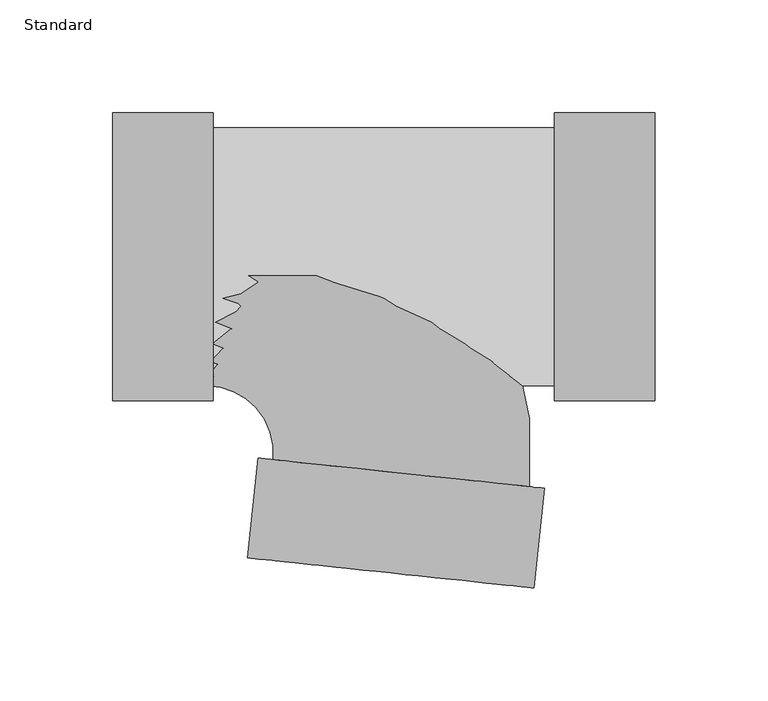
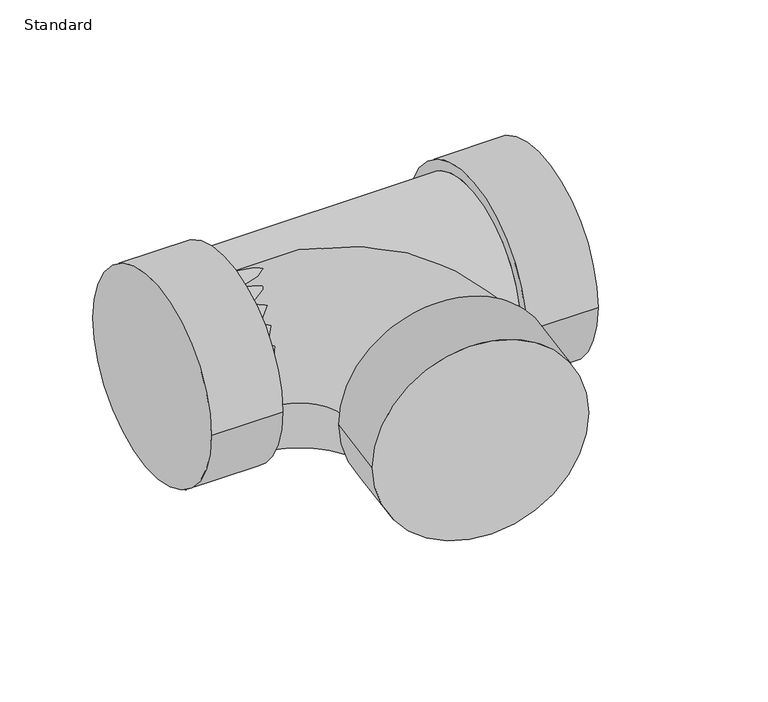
"""IFC4 building model written with IfcOpenShell, lengths in millimetres: pipe fitting geometry, EG-RCAN Té sanitaire de réduction - PVC - Nom. 40 - DWV : Standard."""

import ifcopenshell
import ifcopenshell.guid

model = None  # the IFC model being written
_history = None  # IfcOwnerHistory: only IFC2X3 demands one
_inside = {}  # id of a spatial element -> (the spatial element, [elements in it])
_under = {}  # id of a project, library or spatial element -> (it, [spatial elements below it])
_declared = {}  # id of a project -> (the project, [libraries it declares])
_typed = {}  # id of a type object -> (the type object, [elements of that type])
_made_of = {}  # id of a material, layer set ... -> (it, [elements and type objects made of it])


def new_model(schema):
    """Start an empty IFC model of exactly this schema.

    Asked for "IFC4X3", IfcOpenShell would pick the latest addendum, in which some entities
    have other attributes; the version numbers below select the first issue.
    IFC2X3 requires an IfcOwnerHistory on every rooted entity: one is made here for all.
    """
    global model, _history
    if schema == "IFC4X3":
        model = ifcopenshell.file(schema_version=(4, 3, 0, 0))
    else:
        model = ifcopenshell.file(schema=schema)
    _inside.clear()
    _under.clear()
    _declared.clear()
    _typed.clear()
    _made_of.clear()
    _history = None
    if model.schema == "IFC2X3":
        org = make("IfcOrganization", Name="unknown")
        user = make(
            "IfcPersonAndOrganization",
            ThePerson=make("IfcPerson", FamilyName="unknown"),
            TheOrganization=org,
        )
        app = make(
            "IfcApplication",
            ApplicationDeveloper=org,
            Version="unknown",
            ApplicationFullName="unknown",
            ApplicationIdentifier="unknown",
        )
        _history = make(
            "IfcOwnerHistory",
            OwningUser=user,
            OwningApplication=app,
            ChangeAction="ADDED",
            CreationDate=0,
        )
    return model


def make(cls, **values):
    """One entity of the class cls with the attributes given. An attribute that is None is left unset."""
    return model.create_entity(
        cls, **{name: value for name, value in values.items() if value is not None}
    )


def rooted(cls, **values):
    """An entity with a GlobalId (a new one), such as an element, a storey or a relation."""
    return make(cls, GlobalId=ifcopenshell.guid.new(), OwnerHistory=_history, **values)


def si_unit(unit_type, name, prefix=None):
    """IfcSIUnit, for example si_unit("LENGTHUNIT", "METRE", prefix="MILLI")."""
    return make("IfcSIUnit", UnitType=unit_type, Prefix=prefix, Name=name)


def assignment(units):
    """IfcUnitAssignment: the units of a project."""
    return None if units is None else make("IfcUnitAssignment", Units=units)


def point(xyz):
    """IfcCartesianPoint."""
    return None if xyz is None else make("IfcCartesianPoint", Coordinates=xyz)


def direction(xyz):
    """IfcDirection."""
    return None if xyz is None else make("IfcDirection", DirectionRatios=xyz)


def frame(location, z_axis=None, x_axis=None):
    """IfcAxis2Placement3D, a coordinate frame: its origin and axes. An axis left out is left unset."""
    return make(
        "IfcAxis2Placement3D",
        Location=point(location),
        Axis=direction(z_axis),
        RefDirection=direction(x_axis),
    )


def origin():
    """The frame at (0, 0, 0) with its axes left unset."""
    return frame((0.0, 0.0, 0.0))


def place(relative_to, where):
    """IfcLocalPlacement: puts the frame where relative to a parent placement (None: the world)."""
    return make(
        "IfcLocalPlacement", PlacementRelTo=relative_to, RelativePlacement=where
    )


def context(
    kind, dimensions, precision=None, world=None, true_north=None, identifier=None
):
    """IfcGeometricRepresentationContext, for example the 3D "Model" context."""
    return make(
        "IfcGeometricRepresentationContext",
        ContextIdentifier=identifier,
        ContextType=kind,
        CoordinateSpaceDimension=dimensions,
        Precision=precision,
        WorldCoordinateSystem=world,
        TrueNorth=true_north,
    )


def project(units=None, contexts=None):
    """IfcProject with its units and contexts."""
    return rooted(
        "IfcProject",
        Name="project",
        RepresentationContexts=contexts,
        UnitsInContext=assignment(units),
    )


def spatial(cls, under=None, at=None, **own):
    """A site, building, storey or space (cls), placed at a placement, below another one or the project."""
    s = rooted(cls, ObjectPlacement=at, **own)
    if under is not None:
        _under.setdefault(under.id(), (under, []))[1].append(s)
    return s


def circle_curve(where, radius):
    """IfcCircle in the frame where."""
    return make("IfcCircle", Position=where, Radius=radius)


def ellipse_curve(where, semi_axis1, semi_axis2):
    """IfcEllipse in the frame where."""
    return make(
        "IfcEllipse", Position=where, SemiAxis1=semi_axis1, SemiAxis2=semi_axis2
    )


def trimmed(basis, trim1, trim2, sense, master):
    """IfcTrimmedCurve: the piece of a basis curve between two trims."""
    return make(
        "IfcTrimmedCurve",
        BasisCurve=basis,
        Trim1=trim1,
        Trim2=trim2,
        SenseAgreement=sense,
        MasterRepresentation=master,
    )


def shape(context_of_items, identifier, shape_type, items):
    """IfcShapeRepresentation: the items that make up one representation, for example the "Body"."""
    return make(
        "IfcShapeRepresentation",
        ContextOfItems=context_of_items,
        RepresentationIdentifier=identifier,
        RepresentationType=shape_type,
        Items=items,
    )


def source(mapping_origin, context_of_items, identifier, shape_type, items):
    """IfcRepresentationMap: a shape defined once, which mapped items show again and again."""
    return make(
        "IfcRepresentationMap",
        MappingOrigin=mapping_origin,
        MappedRepresentation=shape(context_of_items, identifier, shape_type, items),
    )


def transform(
    local_origin,
    x_axis=None,
    y_axis=None,
    z_axis=None,
    scale=None,
    scale2=None,
    scale3=None,
    uniform=True,
):
    """IfcCartesianTransformationOperator3D, or its non-uniform kind. x_axis, y_axis, z_axis: its Axis1, 2, 3."""
    if uniform:
        return make(
            "IfcCartesianTransformationOperator3D",
            Axis1=direction(x_axis),
            Axis2=direction(y_axis),
            LocalOrigin=point(local_origin),
            Scale=scale,
            Axis3=direction(z_axis),
        )
    return make(
        "IfcCartesianTransformationOperator3DnonUniform",
        Axis1=direction(x_axis),
        Axis2=direction(y_axis),
        LocalOrigin=point(local_origin),
        Scale=scale,
        Axis3=direction(z_axis),
        Scale2=scale2,
        Scale3=scale3,
    )


def mapped(mapping_source, mapping_target):
    """IfcMappedItem: shows the shape of a source again, moved by a transform."""
    return make(
        "IfcMappedItem", MappingSource=mapping_source, MappingTarget=mapping_target
    )


def made_of(thing, what):
    """Note that an element or type object is made of a material, layer set ...; save() writes the relation."""
    if what is not None:
        _made_of.setdefault(what.id(), (what, []))[1].append(thing)
    return thing


def element(
    cls,
    number,
    at=None,
    inside=None,
    cuts=None,
    type_object=None,
    material=None,
    context=None,
    identifier="Body",
    shape_type=None,
    held_by="IfcProductDefinitionShape",
    body=None,
    shapes=None,
    **own,
):
    """One element of the class cls, such as IfcWall. Its Tag is "e" and its number.

    at: its placement. inside: the storey or other place that contains it. cuts: it is an
    opening in that element (IfcRelVoidsElement). A single representation is given by context,
    identifier, shape_type and body (its items); several are given by shapes. held_by: the class
    of the entity that holds the representations. save() writes the other relations.
    """
    e = rooted(cls, Tag="e%d" % number, ObjectPlacement=at, **own)
    if body is not None:
        shapes = [shape(context, identifier, shape_type, body)]
    if shapes is not None:
        e.Representation = make(held_by, Representations=shapes)
    if inside is not None:
        _inside.setdefault(inside.id(), (inside, []))[1].append(e)
    if cuts is not None:
        rooted(
            "IfcRelVoidsElement", RelatingBuildingElement=cuts, RelatedOpeningElement=e
        )
    if type_object is not None:
        _typed.setdefault(type_object.id(), (type_object, []))[1].append(e)
    return made_of(e, material)


def aggregate(whole, parts):
    """IfcRelAggregates: a whole, such as a stair, and the parts it consists of."""
    return rooted("IfcRelAggregates", RelatingObject=whole, RelatedObjects=parts)


def save(model, path):
    """Write the relations noted so far, then the file.

    IfcRelAggregates (storeys below a building ...), IfcRelContainedInSpatialStructure (elements
    in a storey), IfcRelDefinesByType, IfcRelAssociatesMaterial and IfcRelDeclares: one each for
    every whole, place, type object, material and project.
    """
    for whole, parts in _under.values():
        aggregate(whole, parts)
    for where, things in _inside.values():
        rooted(
            "IfcRelContainedInSpatialStructure",
            RelatedElements=things,
            RelatingStructure=where,
        )
    for kind, things in _typed.values():
        rooted("IfcRelDefinesByType", RelatedObjects=things, RelatingType=kind)
    for what, things in _made_of.values():
        rooted("IfcRelAssociatesMaterial", RelatedObjects=things, RelatingMaterial=what)
    for by, libraries in _declared.values():
        rooted("IfcRelDeclares", RelatingContext=by, RelatedDefinitions=libraries)
    model.write(path)


def plane_surface(at):
    """IfcPlane: the flat surface through the origin of the frame at, square to its z axis."""
    return make("IfcPlane", Position=at)


def cylinder_surface(at, radius):
    """IfcCylindricalSurface: all points at the distance radius from the z axis of the frame at."""
    return make("IfcCylindricalSurface", Position=at, Radius=radius)


def revolved_surface(curve, axis_point, axis_direction):
    """IfcSurfaceOfRevolution: the curve turned about the line through axis_point along axis_direction."""
    return make(
        "IfcSurfaceOfRevolution",
        SweptCurve=make("IfcArbitraryOpenProfileDef", ProfileType="CURVE", Curve=curve),
        AxisPosition=make("IfcAxis1Placement", Location=point(axis_point), Axis=direction(axis_direction)),
    )


def advanced_brep(points, edges, surfaces, faces):
    """IfcAdvancedBrep: a solid bounded by faces that lie on surfaces and meet in shared edges.

    An edge is (start, end): straight between two places in points (the first is 0);
    or (start, end, curve); or (start, end, curve, False) where it runs against its curve.
    A face is (place in surfaces, loops), or (place, loops, False) where it looks against
    its surface's normal. A loop lists edges by number (the first is 1), with a minus sign
    where the edge is run from its end to its start. The first loop is the outer one.
    """
    corners = [point(p) for p in points]
    vertices = [make("IfcVertexPoint", VertexGeometry=c) for c in corners]
    made = []
    for start, end, *more in edges:
        made.append(
            make(
                "IfcEdgeCurve",
                EdgeStart=vertices[start],
                EdgeEnd=vertices[end],
                EdgeGeometry=more[0] if more else make("IfcPolyline", Points=[corners[start], corners[end]]),
                SameSense=more[1] if len(more) > 1 else True,
            )
        )
    hull = []
    for where, loops, *sense in faces:
        bounds = []
        for j, loop in enumerate(loops):
            ring = [make("IfcOrientedEdge", EdgeElement=made[abs(k) - 1], Orientation=k > 0) for k in loop]
            bounds.append(
                make(
                    "IfcFaceOuterBound" if j == 0 else "IfcFaceBound",
                    Bound=make("IfcEdgeLoop", EdgeList=ring),
                    Orientation=True,
                )
            )
        hull.append(make("IfcAdvancedFace", Bounds=bounds, FaceSurface=surfaces[where], SameSense=sense[0] if sense else True))
    return make("IfcAdvancedBrep", Outer=make("IfcClosedShell", CfsFaces=hull))


def standard_1ccfa073(model_context):
    return source(origin(), model_context, "Body", "AdvancedBrep", [
        advanced_brep(
        [(57.822125, -63.754, 0.0), (57.822125, 63.754, 0.0), (57.822125, -57.15, 0.0), (57.822125, 57.15, 0.0), (102.272125, -63.754, 0.0), (102.272125, 63.754, 0.0), (-93.4599062, 57.15, 0.0), (-93.4599062, -57.15, 0.0), (-137.9099062, -63.754, 0.0), (-137.9099062, 63.754, 0.0), (-93.4599062, -63.754, 0.0), (-93.4599062, 63.754, 0.0)],
        [
            (0, 1, circle_curve(frame((57.822125, 0.0, 0.0), z_axis=(-1.0, 0.0, 0.0), x_axis=(0.0, 1.0, 0.0)), 63.754)),
            (1, 0, circle_curve(frame((57.822125, 0.0, 0.0), z_axis=(-1.0, 0.0, 0.0), x_axis=(0.0, 1.0, 0.0)), 63.754)),
            (2, 3, circle_curve(frame((57.822125, 0.0, 0.0), z_axis=(1.0, 0.0, 0.0), x_axis=(0.0, 0.0, -1.0)), 57.15)),
            (3, 2, circle_curve(frame((57.822125, 0.0, 0.0), z_axis=(1.0, 0.0, 0.0), x_axis=(0.0, 0.0, 1.0)), 57.15)),
            (4, 5, circle_curve(frame((102.272125, 0.0, 0.0), z_axis=(1.0, 0.0, 0.0), x_axis=(0.0, 1.0, 0.0)), 63.754)),
            (5, 4, circle_curve(frame((102.272125, 0.0, 0.0), z_axis=(1.0, 0.0, 0.0), x_axis=(0.0, 1.0, 0.0)), 63.754)),
            (0, 4),
            (5, 1),
            (6, 3),
            (2, 7),
            (7, 6, circle_curve(frame((-93.4599062, 0.0, 0.0), z_axis=(1.0, 0.0, 0.0), x_axis=(0.0, 0.0, -1.0)), 57.15)),
            (6, 7, circle_curve(frame((-93.4599062, 0.0, 0.0), z_axis=(1.0, 0.0, 0.0), x_axis=(0.0, 0.0, 1.0)), 57.15)),
            (8, 9, circle_curve(frame((-137.9099062, 0.0, 0.0), z_axis=(-1.0, 0.0, 0.0), x_axis=(0.0, 1.0, 0.0)), 63.754)),
            (9, 8, circle_curve(frame((-137.9099062, 0.0, 0.0), z_axis=(-1.0, 0.0, 0.0), x_axis=(0.0, 1.0, 0.0)), 63.754)),
            (10, 11, circle_curve(frame((-93.4599062, 0.0, 0.0), z_axis=(1.0, 0.0, 0.0), x_axis=(0.0, 1.0, 0.0)), 63.754)),
            (11, 10, circle_curve(frame((-93.4599062, 0.0, 0.0), z_axis=(1.0, 0.0, 0.0), x_axis=(0.0, 1.0, 0.0)), 63.754)),
            (8, 10),
            (11, 9),
        ],
        [
            plane_surface(frame((57.822125, 0.0, 0.0), z_axis=(-1.0, 0.0, 0.0), x_axis=(0.0, 0.0, 1.0))),
            plane_surface(frame((102.272125, 0.0, 0.0), z_axis=(1.0, 0.0, 0.0), x_axis=(0.0, 0.0, 1.0))),
            cylinder_surface(frame((57.822125, 0.0, 0.0), z_axis=(-1.0, 0.0, 0.0), x_axis=(0.0, 1.0, 0.0)), 63.754),
            cylinder_surface(frame((-93.4599062, 0.0, 0.0), z_axis=(1.0, 0.0, 0.0), x_axis=(0.0, 0.0, -1.0)), 57.15),
            cylinder_surface(frame((-93.4599062, 0.0, 0.0), z_axis=(1.0, 0.0, 0.0), x_axis=(0.0, 0.0, 1.0)), 57.15),
            plane_surface(frame((-137.9099062, 0.0, 0.0), z_axis=(-1.0, 0.0, 0.0), x_axis=(0.0, 0.0, 1.0))),
            plane_surface(frame((-93.4599062, 0.0, 0.0), z_axis=(1.0, 0.0, 0.0), x_axis=(0.0, 0.0, 1.0))),
            cylinder_surface(frame((-137.9099062, 0.0, 0.0), z_axis=(-1.0, 0.0, 0.0), x_axis=(0.0, 1.0, 0.0)), 63.754),
        ],
        [
            (0, [[1, 2], [3, 4]]),
            (1, [[5, 6]]),
            (2, [[-1, 7, -6, 8]]),
            (2, [[-2, -8, -5, -7]]),
            (3, [[9, -3, 10, 11]]),
            (4, [[-9, 12, -10, -4]]),
            (5, [[13, 14]]),
            (6, [[15, 16], [-11, -12]]),
            (7, [[-13, 17, -16, 18]]),
            (7, [[-14, -18, -15, -17]]),
        ],
    ),
        advanced_brep(
        [(-73.467072, -89.162956, 0.0), (53.3437332, -102.4787271, 0.0), (46.7758429, -101.7890657, 0.0), (-66.8991816, -89.8526174, 0.0), (-78.109024, -133.36991, 0.0), (48.7017811, -146.6856811, 0.0), (-96.3476562, -57.15, 0.0), (-96.3476562, 57.15, 0.0)],
        [
            (0, 1, circle_curve(frame((-10.0616694, -95.8208415, 0.0), z_axis=(0.10443086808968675, 0.9945321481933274, 0.0), x_axis=(0.9945321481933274, -0.10443086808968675, 0.0)), 63.754)),
            (1, 0, circle_curve(frame((-10.0616694, -95.8208415, 0.0), z_axis=(0.10443086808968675, 0.9945321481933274, 0.0), x_axis=(0.9945321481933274, -0.10443086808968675, 0.0)), 63.754)),
            (2, 3, circle_curve(frame((-10.0616694, -95.8208415, 0.0), z_axis=(-0.10443086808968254, -0.9945321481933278, 0.0), x_axis=(0.9945321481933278, -0.10443086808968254, 0.0)), 57.15)),
            (3, 2, circle_curve(frame((-10.0616694, -95.8208415, 0.0), z_axis=(-0.10443086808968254, -0.9945321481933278, 0.0), x_axis=(0.9945321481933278, -0.10443086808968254, 0.0)), 57.15)),
            (4, 5, circle_curve(frame((-14.7036215, -140.0277955, 0.0), z_axis=(-0.10443086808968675, -0.9945321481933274, 0.0), x_axis=(0.9945321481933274, -0.10443086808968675, 0.0)), 63.754)),
            (5, 4, circle_curve(frame((-14.7036215, -140.0277955, 0.0), z_axis=(-0.10443086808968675, -0.9945321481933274, 0.0), x_axis=(0.9945321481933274, -0.10443086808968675, 0.0)), 63.754)),
            (0, 4),
            (5, 1),
            (6, 7, circle_curve(frame((-96.3476562, 0.0, 0.0), z_axis=(-1.0, 0.0, 0.0), x_axis=(0.0, 1.0, 0.0)), 57.15)),
            (7, 6, circle_curve(frame((-96.3476562, 0.0, 0.0), z_axis=(-1.0, 0.0, 0.0), x_axis=(0.0, 1.0, 0.0)), 57.15)),
            (6, 3, circle_curve(frame((-96.3476562, -86.7603798, 0.0), z_axis=(0.0, 0.0, -1.0), x_axis=(0.0, 1.0, 0.0)), 29.6103798)),
            (2, 7, circle_curve(frame((-96.3476562, -86.7603798, 0.0), z_axis=(0.0, 0.0, 1.0), x_axis=(0.0, 1.0, 0.0)), 143.9103798)),
        ],
        [
            plane_surface(frame((-10.0616694, -95.8208415, 0.0), z_axis=(0.10443086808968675, 0.9945321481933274, 0.0), x_axis=(0.0, 0.0, 1.0))),
            plane_surface(frame((-14.7036215, -140.0277955, 0.0), z_axis=(-0.10443086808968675, -0.9945321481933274, 0.0), x_axis=(0.0, 0.0, 1.0))),
            cylinder_surface(frame((-10.0616694, -95.8208415, 0.0), z_axis=(0.10443086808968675, 0.9945321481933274, 0.0), x_axis=(0.9945321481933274, -0.10443086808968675, 0.0)), 63.754),
            plane_surface(frame((-96.3476562, 0.0, 0.0), z_axis=(-1.0, 0.0, 0.0), x_axis=(0.0, 0.0, 1.0))),
            revolved_surface(trimmed(ellipse_curve(frame((-96.3476562, 0.0, 0.0), z_axis=(-1.0, 0.0, 0.0), x_axis=(0.0, 1.0, 0.0)), 57.15, 57.15), [point((-96.3476562, -57.15, 0.0))], [point((-96.3476562, 57.15, 0.0))], True, "CARTESIAN"), (-96.3476562, -86.7603798, 0.0), (0.0, 0.0, -1.0)),
            revolved_surface(trimmed(ellipse_curve(frame((-96.3476562, 0.0, 0.0), z_axis=(-1.0, 0.0, 0.0), x_axis=(0.0, 1.0, 0.0)), 57.15, 57.15), [point((-96.3476562, 57.15, 0.0))], [point((-96.3476562, -57.15, 0.0))], True, "CARTESIAN"), (-96.3476562, -86.7603798, 0.0), (0.0, 0.0, -1.0)),
        ],
        [
            (0, [[1, 2], [3, 4]]),
            (1, [[5, 6]]),
            (2, [[-1, 7, -6, 8]]),
            (2, [[-2, -8, -5, -7]]),
            (3, [[9, 10]]),
            (4, [[-9, 11, -3, 12]]),
            (5, [[-10, -12, -4, -11]]),
        ],
    ),
    ])


if __name__ == "__main__":
    model = new_model("IFC4")
    model_context = context("Model", 3, world=origin())
    ifc_project = project(units=[si_unit("LENGTHUNIT", "METRE", prefix="MILLI")], contexts=[model_context])
    site = spatial("IfcSite", under=ifc_project)
    building = spatial("IfcBuilding", under=site)
    placement = place(None, origin())
    standard_shape = standard_1ccfa073(model_context)
    element("IfcPipeFitting", 1, ObjectType="EG-RCAN Té sanitaire de réduction - PVC - Nom. 40 - DWV : Standard", at=placement, inside=building, context=model_context, shape_type="MappedRepresentation", body=[
        mapped(standard_shape, transform((0.0, 0.0, 0.0), x_axis=(1.0, 0.0, 0.0), y_axis=(0.0, 1.0, 0.0), z_axis=(0.0, 0.0, 1.0))),
    ])
    save(model, "model.ifc")
